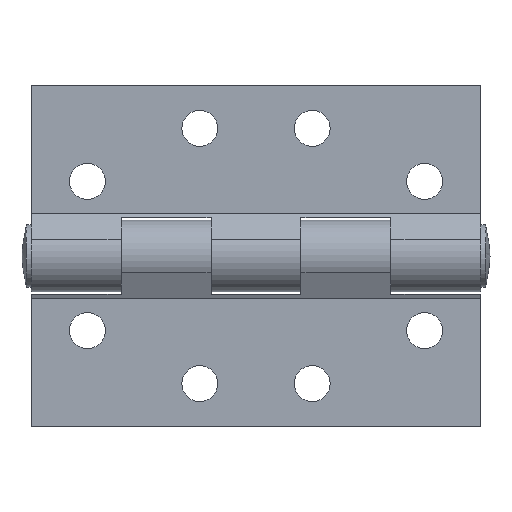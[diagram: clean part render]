
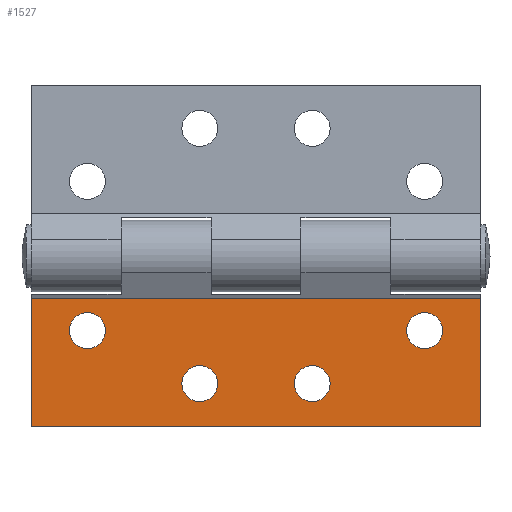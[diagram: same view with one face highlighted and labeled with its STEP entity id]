
A CAD part, front view. The second image highlights one B-rep face of the part: STEP entity #1527.
In plain terms, the highlighted planar face has unit normal (0, -1, 0).
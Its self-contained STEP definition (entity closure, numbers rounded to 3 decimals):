
#4 = ORIENTED_EDGE ( 'NONE', *, *, #59, .F. ) ;
#36 = DIRECTION ( 'NONE',  ( 0., 0., -1. ) ) ;
#59 = EDGE_CURVE ( 'NONE', #2627, #1670, #3495, .T. ) ;
#77 = ORIENTED_EDGE ( 'NONE', *, *, #1536, .F. ) ;
#90 = CIRCLE ( 'NONE', #3753, 2. ) ;
#100 = DIRECTION ( 'NONE',  ( 0., -1., 0. ) ) ;
#102 = VERTEX_POINT ( 'NONE', #1679 ) ;
#116 = ORIENTED_EDGE ( 'NONE', *, *, #3422, .F. ) ;
#126 = PLANE ( 'NONE',  #935 ) ;
#251 = DIRECTION ( 'NONE',  ( 0., -1., 0. ) ) ;
#404 = FACE_BOUND ( 'NONE', #447, .T. ) ;
#412 = CARTESIAN_POINT ( 'NONE',  ( -18.75, -1.2, -4.04 ) ) ;
#420 = ORIENTED_EDGE ( 'NONE', *, *, #3100, .F. ) ;
#425 = CARTESIAN_POINT ( 'NONE',  ( -25., -1.2, -14.74 ) ) ;
#429 = DIRECTION ( 'NONE',  ( 0., -1., 0. ) ) ;
#439 = CARTESIAN_POINT ( 'NONE',  ( 25., -1.2, -14.74 ) ) ;
#443 = AXIS2_PLACEMENT_3D ( 'NONE', #3141, #429, #456 ) ;
#447 = EDGE_LOOP ( 'NONE', ( #1064, #1991 ) ) ;
#456 = DIRECTION ( 'NONE',  ( 0., 0., -1. ) ) ;
#472 = EDGE_LOOP ( 'NONE', ( #116, #2765, #2574, #1799 ) ) ;
#535 = DIRECTION ( 'NONE',  ( -1., 0., 0. ) ) ;
#538 = VERTEX_POINT ( 'NONE', #2072 ) ;
#539 = CARTESIAN_POINT ( 'NONE',  ( -6.25, -1.2, -7.94 ) ) ;
#544 = VERTEX_POINT ( 'NONE', #1492 ) ;
#648 = EDGE_CURVE ( 'NONE', #2837, #2721, #1224, .T. ) ;
#744 = CIRCLE ( 'NONE', #1148, 2. ) ;
#747 = VECTOR ( 'NONE', #535, 1000. ) ;
#790 = LINE ( 'NONE', #425, #3568 ) ;
#848 = CARTESIAN_POINT ( 'NONE',  ( 18.75, -1.2, -6.04 ) ) ;
#850 = CARTESIAN_POINT ( 'NONE',  ( -18.75, -1.2, -4.04 ) ) ;
#904 = DIRECTION ( 'NONE',  ( 0., -1., 0. ) ) ;
#935 = AXIS2_PLACEMENT_3D ( 'NONE', #3390, #1935, #3653 ) ;
#1014 = VERTEX_POINT ( 'NONE', #1571 ) ;
#1051 = EDGE_CURVE ( 'NONE', #3576, #2828, #1830, .T. ) ;
#1064 = ORIENTED_EDGE ( 'NONE', *, *, #3699, .F. ) ;
#1112 = EDGE_CURVE ( 'NONE', #538, #102, #1172, .T. ) ;
#1148 = AXIS2_PLACEMENT_3D ( 'NONE', #412, #1624, #3079 ) ;
#1172 = LINE ( 'NONE', #3204, #747 ) ;
#1224 = CIRCLE ( 'NONE', #3803, 2. ) ;
#1292 = CARTESIAN_POINT ( 'NONE',  ( 6.25, -1.2, -9.94 ) ) ;
#1298 = VERTEX_POINT ( 'NONE', #3312 ) ;
#1366 = FACE_BOUND ( 'NONE', #3326, .T. ) ;
#1380 = DIRECTION ( 'NONE',  ( 0., 0., 1. ) ) ;
#1492 = CARTESIAN_POINT ( 'NONE',  ( -6.25, -1.2, -11.94 ) ) ;
#1527 = ADVANCED_FACE ( 'NONE', ( #404, #1784, #3396, #1366, #1920 ), #126, .T. ) ;
#1536 = EDGE_CURVE ( 'NONE', #1298, #1014, #744, .T. ) ;
#1571 = CARTESIAN_POINT ( 'NONE',  ( -18.75, -1.2, -6.04 ) ) ;
#1581 = CARTESIAN_POINT ( 'NONE',  ( 25., -1.2, -0.461 ) ) ;
#1624 = DIRECTION ( 'NONE',  ( 0., -1., 0. ) ) ;
#1670 = VERTEX_POINT ( 'NONE', #848 ) ;
#1679 = CARTESIAN_POINT ( 'NONE',  ( -25., -1.2, -14.74 ) ) ;
#1726 = EDGE_CURVE ( 'NONE', #544, #1743, #90, .T. ) ;
#1743 = VERTEX_POINT ( 'NONE', #539 ) ;
#1757 = EDGE_LOOP ( 'NONE', ( #4, #420 ) ) ;
#1784 = FACE_BOUND ( 'NONE', #2913, .T. ) ;
#1799 = ORIENTED_EDGE ( 'NONE', *, *, #1051, .T. ) ;
#1818 = CIRCLE ( 'NONE', #3684, 2. ) ;
#1830 = LINE ( 'NONE', #1581, #1970 ) ;
#1847 = DIRECTION ( 'NONE',  ( 0., 0., -1. ) ) ;
#1870 = VECTOR ( 'NONE', #2819, 1000. ) ;
#1920 = FACE_OUTER_BOUND ( 'NONE', #472, .T. ) ;
#1935 = DIRECTION ( 'NONE',  ( 0., -1., 0. ) ) ;
#1970 = VECTOR ( 'NONE', #3635, 1000. ) ;
#1991 = ORIENTED_EDGE ( 'NONE', *, *, #1726, .F. ) ;
#2044 = DIRECTION ( 'NONE',  ( 0., 0., -1. ) ) ;
#2072 = CARTESIAN_POINT ( 'NONE',  ( 25., -1.2, -14.74 ) ) ;
#2131 = AXIS2_PLACEMENT_3D ( 'NONE', #3278, #904, #3297 ) ;
#2258 = EDGE_CURVE ( 'NONE', #2721, #2837, #1818, .T. ) ;
#2270 = CARTESIAN_POINT ( 'NONE',  ( 25., -1.2, -0.461 ) ) ;
#2274 = CIRCLE ( 'NONE', #2131, 2. ) ;
#2322 = CARTESIAN_POINT ( 'NONE',  ( 6.25, -1.2, -11.94 ) ) ;
#2335 = DIRECTION ( 'NONE',  ( 0., 0., -1. ) ) ;
#2574 = ORIENTED_EDGE ( 'NONE', *, *, #3395, .T. ) ;
#2584 = CARTESIAN_POINT ( 'NONE',  ( 6.25, -1.2, -7.94 ) ) ;
#2627 = VERTEX_POINT ( 'NONE', #2909 ) ;
#2643 = DIRECTION ( 'NONE',  ( 0., 0., -1. ) ) ;
#2645 = ORIENTED_EDGE ( 'NONE', *, *, #648, .F. ) ;
#2666 = DIRECTION ( 'NONE',  ( 0., -1., 0. ) ) ;
#2721 = VERTEX_POINT ( 'NONE', #2322 ) ;
#2734 = DIRECTION ( 'NONE',  ( 0., -1., 0. ) ) ;
#2765 = ORIENTED_EDGE ( 'NONE', *, *, #1112, .F. ) ;
#2790 = CARTESIAN_POINT ( 'NONE',  ( -25., -1.2, -0.461 ) ) ;
#2819 = DIRECTION ( 'NONE',  ( 0., 0., 1. ) ) ;
#2828 = VERTEX_POINT ( 'NONE', #2790 ) ;
#2837 = VERTEX_POINT ( 'NONE', #2584 ) ;
#2909 = CARTESIAN_POINT ( 'NONE',  ( 18.75, -1.2, -2.04 ) ) ;
#2913 = EDGE_LOOP ( 'NONE', ( #2645, #3237 ) ) ;
#2983 = LINE ( 'NONE', #439, #1870 ) ;
#3079 = DIRECTION ( 'NONE',  ( 0., 0., -1. ) ) ;
#3100 = EDGE_CURVE ( 'NONE', #1670, #2627, #2274, .T. ) ;
#3141 = CARTESIAN_POINT ( 'NONE',  ( 18.75, -1.2, -4.04 ) ) ;
#3204 = CARTESIAN_POINT ( 'NONE',  ( 25., -1.2, -14.74 ) ) ;
#3237 = ORIENTED_EDGE ( 'NONE', *, *, #2258, .F. ) ;
#3245 = DIRECTION ( 'NONE',  ( 0., -1., 0. ) ) ;
#3278 = CARTESIAN_POINT ( 'NONE',  ( 18.75, -1.2, -4.04 ) ) ;
#3297 = DIRECTION ( 'NONE',  ( 0., 0., -1. ) ) ;
#3301 = AXIS2_PLACEMENT_3D ( 'NONE', #3783, #2666, #2643 ) ;
#3304 = CIRCLE ( 'NONE', #3498, 2. ) ;
#3312 = CARTESIAN_POINT ( 'NONE',  ( -18.75, -1.2, -2.04 ) ) ;
#3326 = EDGE_LOOP ( 'NONE', ( #77, #3797 ) ) ;
#3330 = CARTESIAN_POINT ( 'NONE',  ( 6.25, -1.2, -9.94 ) ) ;
#3390 = CARTESIAN_POINT ( 'NONE',  ( 25., -1.2, -14.74 ) ) ;
#3395 = EDGE_CURVE ( 'NONE', #538, #3576, #2983, .T. ) ;
#3396 = FACE_BOUND ( 'NONE', #1757, .T. ) ;
#3422 = EDGE_CURVE ( 'NONE', #102, #2828, #790, .T. ) ;
#3495 = CIRCLE ( 'NONE', #443, 2. ) ;
#3498 = AXIS2_PLACEMENT_3D ( 'NONE', #850, #3245, #2044 ) ;
#3568 = VECTOR ( 'NONE', #1380, 1000. ) ;
#3576 = VERTEX_POINT ( 'NONE', #2270 ) ;
#3635 = DIRECTION ( 'NONE',  ( -1., 0., 0. ) ) ;
#3653 = DIRECTION ( 'NONE',  ( 0., 0., -1. ) ) ;
#3661 = CIRCLE ( 'NONE', #3301, 2. ) ;
#3680 = EDGE_CURVE ( 'NONE', #1014, #1298, #3304, .T. ) ;
#3684 = AXIS2_PLACEMENT_3D ( 'NONE', #3330, #2734, #36 ) ;
#3699 = EDGE_CURVE ( 'NONE', #1743, #544, #3661, .T. ) ;
#3753 = AXIS2_PLACEMENT_3D ( 'NONE', #3791, #251, #2335 ) ;
#3783 = CARTESIAN_POINT ( 'NONE',  ( -6.25, -1.2, -9.94 ) ) ;
#3791 = CARTESIAN_POINT ( 'NONE',  ( -6.25, -1.2, -9.94 ) ) ;
#3797 = ORIENTED_EDGE ( 'NONE', *, *, #3680, .F. ) ;
#3803 = AXIS2_PLACEMENT_3D ( 'NONE', #1292, #100, #1847 ) ;
